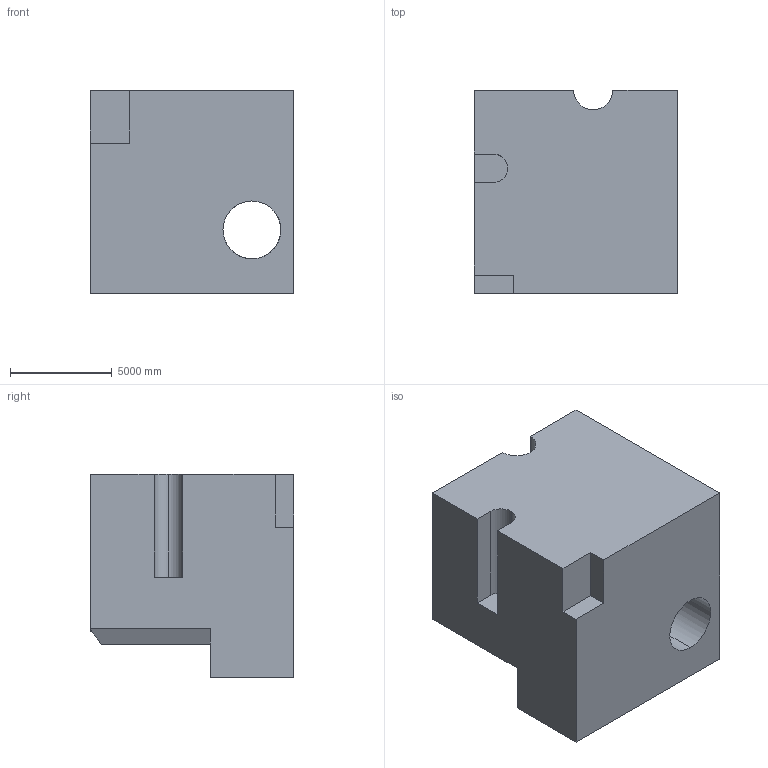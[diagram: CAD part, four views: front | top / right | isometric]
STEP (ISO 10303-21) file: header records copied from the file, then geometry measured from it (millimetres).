
FILE_DESCRIPTION (( 'STEP AP203' ), '1' );
FILE_NAME ('62.STEP', '2022-08-30T14:17:08', ( 'user' ), ( '' ), 'SwSTEP 2.0', 'SolidWorks 2021', '' );
FILE_SCHEMA (( 'CONFIG_CONTROL_DESIGN' ));
Length unit declared in the file: centimetre
Products named in the file (1): 62
Bounding box: 10000 x 10000 x 10000 mm (x, y, z)
Volume: 791319976795 mm3; surface area: 647239513 mm2
Topology: 1 solids, 1 shells, 30 faces, 80 edges, 53 vertices
Faces by surface type: plane 21, cylinder 9
Entity records: 1139 total; most frequent: CARTESIAN_POINT 301, ORIENTED_EDGE 160, DIRECTION 156, EDGE_CURVE 80, VECTOR 56, LINE 56, VERTEX_POINT 53, AXIS2_PLACEMENT_3D 50
